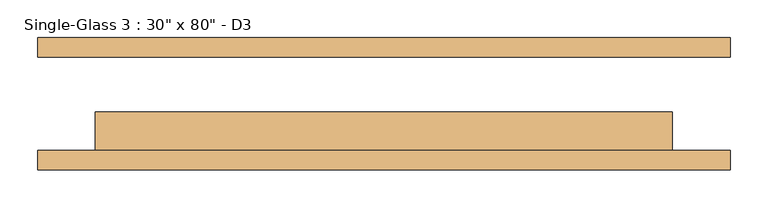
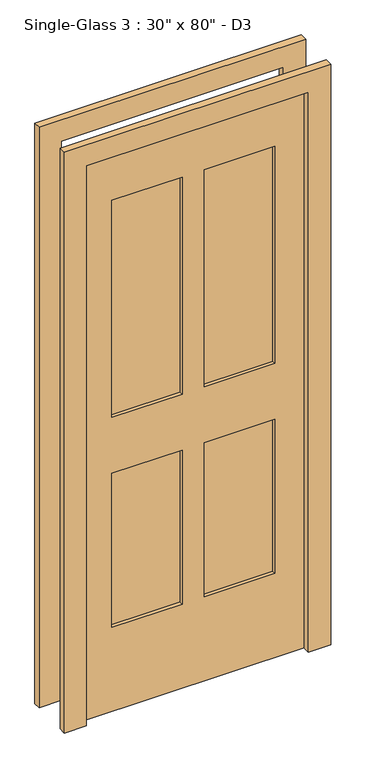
"""IFC4 building model written with IfcOpenShell, lengths in millimetres: door geometry."""

from ifc_helpers import new_model, si_unit, frame, origin, place, context, project, spatial, polyline, outline, extrude, source, transform, mapped, element, save


def door_bfc1a142(model_context):
    return source(origin(), model_context, "Body", "SweptSolid", [
        extrude(outline(polyline([(2108.2, -457.2), (0.0, -457.2), (0.0, -381.1240165), (2033.3906173, -381.1240165), (2033.3906173, 380.8759835), (0.0, 380.8759835), (0.0, 457.2), (2108.2, 457.2), (2108.2, -457.2)])), frame((0.0, -87.3125, 0.0), z_axis=(0.0, 1.0, 0.0), x_axis=(0.0, 0.0, 1.0)), (0.0, 0.0, 1.0), 25.4),
        extrude(outline(polyline([(2108.2, 457.2), (2108.2, -457.2), (1.3906173, -457.2), (1.3906173, -381.1240165), (2032.0, -381.1240165), (2032.0, 381.0), (0.0, 381.0), (0.0, 457.2), (2108.2, 457.2)])), frame((0.0, 61.9125, 0.0), z_axis=(0.0, 1.0, 0.0), x_axis=(0.0, 0.0, 1.0)), (0.0, 0.0, 1.0), 25.4),
        extrude(outline(polyline([(-37.9166629, -23.8125), (-37.9166629, -49.2125), (-279.4, -49.2125), (-279.4, -23.8125), (-37.9166629, -23.8125)])), frame((0.0, 0.0, 1066.8), z_axis=(0.0, 0.0, 1.0), x_axis=(1.0, 0.0, 0.0)), (0.0, 0.0, 1.0), 787.6046757),
        extrude(outline(polyline([(279.4, -23.8125), (279.4, -49.2125), (37.4271634, -49.2125), (37.4271634, -23.8125), (279.4, -23.8125)])), frame((0.0, 0.0, 1066.8), z_axis=(0.0, 0.0, 1.0), x_axis=(1.0, 0.0, 0.0)), (0.0, 0.0, 1.0), 787.6046757),
        extrude(outline(polyline([(-37.9166629, -23.8125), (-37.9166629, -49.2125), (-279.4, -49.2125), (-279.4, -23.8125), (-37.9166629, -23.8125)])), frame((0.0, 0.0, 305.0046757), z_axis=(0.0, 0.0, 1.0), x_axis=(1.0, 0.0, 0.0)), (0.0, 0.0, 1.0), 558.8),
        extrude(outline(polyline([(279.4, -23.8125), (279.4, -49.2125), (37.4271634, -49.2125), (37.4271634, -23.8125), (279.4, -23.8125)])), frame((0.0, 0.0, 305.0046757), z_axis=(0.0, 0.0, 1.0), x_axis=(1.0, 0.0, 0.0)), (0.0, 0.0, 1.0), 558.5953243),
        extrude(outline(polyline([(2033.3906173, 380.8759835), (2033.3906173, -381.1240165), (1.3906173, -381.1240165), (1.3906173, 380.8759835), (2033.3906173, 380.8759835)]), holes=[polyline([(1855.795293, -38.2240165), (1068.1906173, -38.2240165), (1068.1906173, -278.8511799), (1855.795293, -278.8511799), (1855.795293, -38.2240165)]), polyline([(1855.795293, 279.9488201), (1068.1906173, 279.9488201), (1068.1906173, 37.9759835), (1855.795293, 37.9759835), (1855.795293, 279.9488201)]), polyline([(865.195293, -38.2240165), (306.395293, -38.2240165), (306.395293, -278.8511799), (865.195293, -278.8511799), (865.195293, -38.2240165)]), polyline([(864.9906173, 279.9488201), (306.395293, 279.9488201), (306.395293, 37.9759835), (864.9906173, 37.9759835), (864.9906173, 279.9488201)])]), frame((0.0, -61.9125, 0.0), z_axis=(0.0, 1.0, 0.0), x_axis=(0.0, 0.0, 1.0)), (0.0, 0.0, 1.0), 50.8),
    ])


if __name__ == "__main__":
    model = new_model("IFC4")
    model_context = context("Model", 3, world=origin())
    ifc_project = project(units=[si_unit("LENGTHUNIT", "METRE", prefix="MILLI")], contexts=[model_context])
    site = spatial("IfcSite", under=ifc_project)
    building = spatial("IfcBuilding", under=site)
    placement = place(None, origin())
    door_shape = door_bfc1a142(model_context)
    element("IfcDoor", 1, ObjectType="Single-Glass 3 : 30\" x 80\" - D3", at=placement, inside=building, context=model_context, shape_type="MappedRepresentation", body=[
        mapped(door_shape, transform((0.0, 0.0, 0.0), x_axis=(1.0, 0.0, 0.0), y_axis=(0.0, 1.0, 0.0), z_axis=(0.0, 0.0, 1.0))),
    ])
    save(model, "model.ifc")
